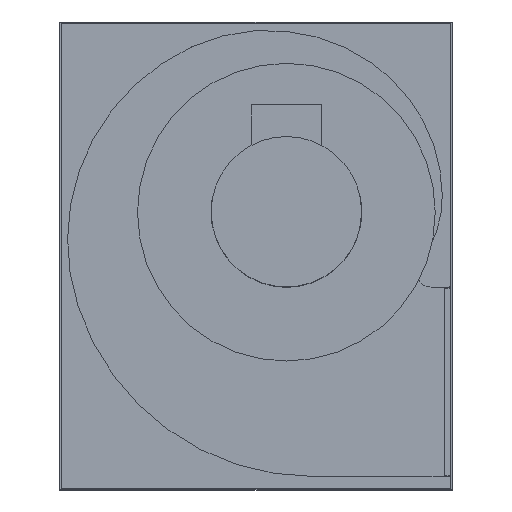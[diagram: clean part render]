
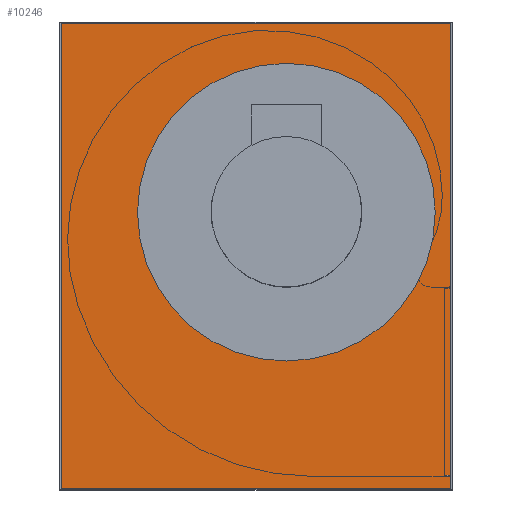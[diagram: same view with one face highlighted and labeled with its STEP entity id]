
A CAD part, top view. The second image highlights one B-rep face of the part: STEP entity #10246.
In plain terms, the highlighted planar face has unit normal (0, 0, 1).
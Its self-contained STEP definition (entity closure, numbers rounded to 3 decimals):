
#1228=CIRCLE('',#10575,96.5);
#1229=CIRCLE('',#10576,137.213);
#1230=CIRCLE('',#10577,135.713);
#1352=FACE_BOUND('',#2485,.T.);
#1353=FACE_BOUND('',#2486,.T.);
#1354=FACE_BOUND('',#2487,.T.);
#1872=FACE_OUTER_BOUND('',#2484,.T.);
#2484=EDGE_LOOP('',(#9294,#9295,#9296,#9297));
#2485=EDGE_LOOP('',(#9298));
#2486=EDGE_LOOP('',(#9299,#9300,#9301,#9302));
#2487=EDGE_LOOP('',(#9303,#9304,#9305,#9306));
#3178=LINE('',#24548,#3861);
#3179=LINE('',#24550,#3862);
#3180=LINE('',#24552,#3863);
#3181=LINE('',#24553,#3864);
#3182=LINE('',#24560,#3865);
#3183=LINE('',#24563,#3866);
#3184=LINE('',#24566,#3867);
#3185=LINE('',#24568,#3868);
#3186=LINE('',#24570,#3869);
#3187=LINE('',#24571,#3870);
#3861=VECTOR('',#11796,10.);
#3862=VECTOR('',#11797,10.);
#3863=VECTOR('',#11798,10.);
#3864=VECTOR('',#11799,10.);
#3865=VECTOR('',#11804,10.);
#3866=VECTOR('',#11807,10.);
#3867=VECTOR('',#11808,10.);
#3868=VECTOR('',#11809,10.);
#3869=VECTOR('',#11810,10.);
#3870=VECTOR('',#11811,10.);
#4899=VERTEX_POINT('',#24546);
#4900=VERTEX_POINT('',#24547);
#4901=VERTEX_POINT('',#24549);
#4902=VERTEX_POINT('',#24551);
#4903=VERTEX_POINT('',#24554);
#4904=VERTEX_POINT('',#24556);
#4905=VERTEX_POINT('',#24557);
#4906=VERTEX_POINT('',#24559);
#4907=VERTEX_POINT('',#24561);
#4908=VERTEX_POINT('',#24564);
#4909=VERTEX_POINT('',#24565);
#4910=VERTEX_POINT('',#24567);
#4911=VERTEX_POINT('',#24569);
#6391=EDGE_CURVE('',#4899,#4900,#3178,.T.);
#6392=EDGE_CURVE('',#4899,#4901,#3179,.T.);
#6393=EDGE_CURVE('',#4901,#4902,#3180,.T.);
#6394=EDGE_CURVE('',#4900,#4902,#3181,.T.);
#6395=EDGE_CURVE('',#4903,#4903,#1228,.T.);
#6396=EDGE_CURVE('',#4904,#4905,#1229,.T.);
#6397=EDGE_CURVE('',#4905,#4906,#3182,.T.);
#6398=EDGE_CURVE('',#4906,#4907,#1230,.T.);
#6399=EDGE_CURVE('',#4907,#4904,#3183,.T.);
#6400=EDGE_CURVE('',#4908,#4909,#3184,.T.);
#6401=EDGE_CURVE('',#4909,#4910,#3185,.T.);
#6402=EDGE_CURVE('',#4910,#4911,#3186,.T.);
#6403=EDGE_CURVE('',#4911,#4908,#3187,.T.);
#9294=ORIENTED_EDGE('',*,*,#6391,.F.);
#9295=ORIENTED_EDGE('',*,*,#6392,.T.);
#9296=ORIENTED_EDGE('',*,*,#6393,.T.);
#9297=ORIENTED_EDGE('',*,*,#6394,.F.);
#9298=ORIENTED_EDGE('',*,*,#6395,.T.);
#9299=ORIENTED_EDGE('',*,*,#6396,.T.);
#9300=ORIENTED_EDGE('',*,*,#6397,.T.);
#9301=ORIENTED_EDGE('',*,*,#6398,.T.);
#9302=ORIENTED_EDGE('',*,*,#6399,.T.);
#9303=ORIENTED_EDGE('',*,*,#6400,.T.);
#9304=ORIENTED_EDGE('',*,*,#6401,.T.);
#9305=ORIENTED_EDGE('',*,*,#6402,.T.);
#9306=ORIENTED_EDGE('',*,*,#6403,.T.);
#9608=PLANE('',#10574);
#10246=ADVANCED_FACE('',(#1872,#1352,#1353,#1354),#9608,.T.);
#10574=AXIS2_PLACEMENT_3D('',#24545,#11794,#11795);
#10575=AXIS2_PLACEMENT_3D('',#24555,#11800,#11801);
#10576=AXIS2_PLACEMENT_3D('',#24558,#11802,#11803);
#10577=AXIS2_PLACEMENT_3D('',#24562,#11805,#11806);
#11794=DIRECTION('center_axis',(0.,0.,
1.));
#11795=DIRECTION('ref_axis',(1.,0.,0.));
#11796=DIRECTION('',(0.,-1.,0.));
#11797=DIRECTION('',(-1.,0.,0.));
#11798=DIRECTION('',(0.,-1.,0.));
#11799=DIRECTION('',(-1.,0.,0.));
#11800=DIRECTION('center_axis',(0.,0.,
-1.));
#11801=DIRECTION('ref_axis',(-1.,0.,0.));
#11802=DIRECTION('center_axis',(0.,0.,
-1.));
#11803=DIRECTION('ref_axis',(1.,0.013,0.));
#11804=DIRECTION('',(-0.787,0.617,0.));
#11805=DIRECTION('center_axis',(0.,0.,
1.));
#11806=DIRECTION('ref_axis',(-1.,-0.013,0.));
#11807=DIRECTION('',(0.787,-0.617,0.));
#11808=DIRECTION('',(0.,1.,0.));
#11809=DIRECTION('',(1.,0.,0.));
#11810=DIRECTION('',(0.,-1.,0.));
#11811=DIRECTION('',(-1.,0.,0.));
#24545=CARTESIAN_POINT('Origin',(-3408.345,901.607,2.));
#24546=CARTESIAN_POINT('',(-3158.345,1199.607,2.));
#24547=CARTESIAN_POINT('',(-3158.345,603.607,2.));
#24548=CARTESIAN_POINT('',(-3158.345,901.607,2.));
#24549=CARTESIAN_POINT('',(-3658.345,1199.607,2.));
#24550=CARTESIAN_POINT('',(-3408.345,1199.607,2.));
#24551=CARTESIAN_POINT('',(-3658.345,603.607,2.));
#24552=CARTESIAN_POINT('',(-3658.345,901.607,2.));
#24553=CARTESIAN_POINT('',(-3408.345,603.607,2.));
#24554=CARTESIAN_POINT('',(-3272.845,957.607,2.));
#24555=CARTESIAN_POINT('Origin',(-3369.345,957.607,2.));
#24556=CARTESIAN_POINT('',(-3192.693,900.429,2.));
#24557=CARTESIAN_POINT('',(-3195.565,896.327,2.));
#24558=CARTESIAN_POINT('Origin',(-3306.521,977.049,2.));
#24559=CARTESIAN_POINT('',(-3196.746,897.254,2.));
#24560=CARTESIAN_POINT('',(-3263.277,949.467,2.));
#24561=CARTESIAN_POINT('',(-3193.877,901.358,2.));
#24562=CARTESIAN_POINT('Origin',(-3306.521,977.049,2.));
#24563=CARTESIAN_POINT('',(-3259.707,953.022,2.));
#24564=CARTESIAN_POINT('',(-3164.345,618.607,2.));
#24565=CARTESIAN_POINT('',(-3164.345,620.107,2.));
#24566=CARTESIAN_POINT('',(-3164.345,760.857,2.));
#24567=CARTESIAN_POINT('',(-3159.345,620.107,2.));
#24568=CARTESIAN_POINT('',(-3284.345,620.107,2.));
#24569=CARTESIAN_POINT('',(-3159.345,618.607,2.));
#24570=CARTESIAN_POINT('',(-3159.345,760.107,2.));
#24571=CARTESIAN_POINT('',(-3284.345,618.607,2.));
